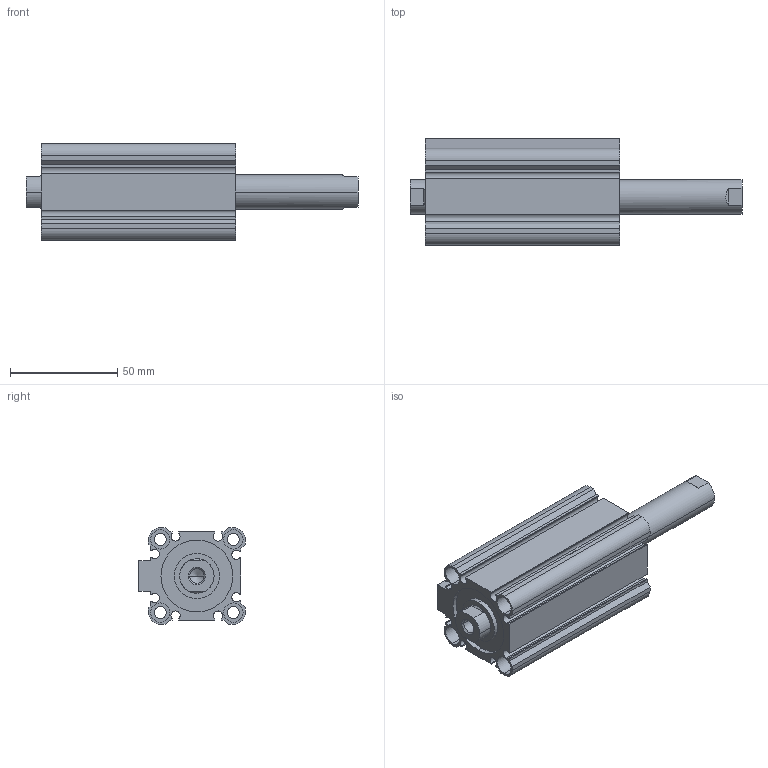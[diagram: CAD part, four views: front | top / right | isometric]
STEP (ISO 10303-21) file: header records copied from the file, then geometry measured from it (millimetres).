
FILE_DESCRIPTION (( 'STEP AP203' ), '1' );
FILE_NAME ('CCMB32-50F-P.STEP', '2020-08-05T11:16:11', ( '' ), ( '' ), 'SwSTEP 2.0', 'SolidWorks 2019', '' );
FILE_SCHEMA (( 'CONFIG_CONTROL_DESIGN' ));
Length unit declared in the file: millimetre
Products named in the file (1): CCMB32-50F-P
Bounding box: 154.5 x 49.5 x 45 mm (x, y, z)
Volume: 127773.5 mm3; surface area: 53923.3 mm2
Topology: 2 solids, 2 shells, 164 faces, 414 edges, 270 vertices
Faces by surface type: plane 78, cylinder 74, cone 12
Entity records: 5029 total; most frequent: DIRECTION 896, CARTESIAN_POINT 857, ORIENTED_EDGE 820, EDGE_CURVE 410, AXIS2_PLACEMENT_3D 325, VERTEX_POINT 270, VECTOR 246, LINE 246
